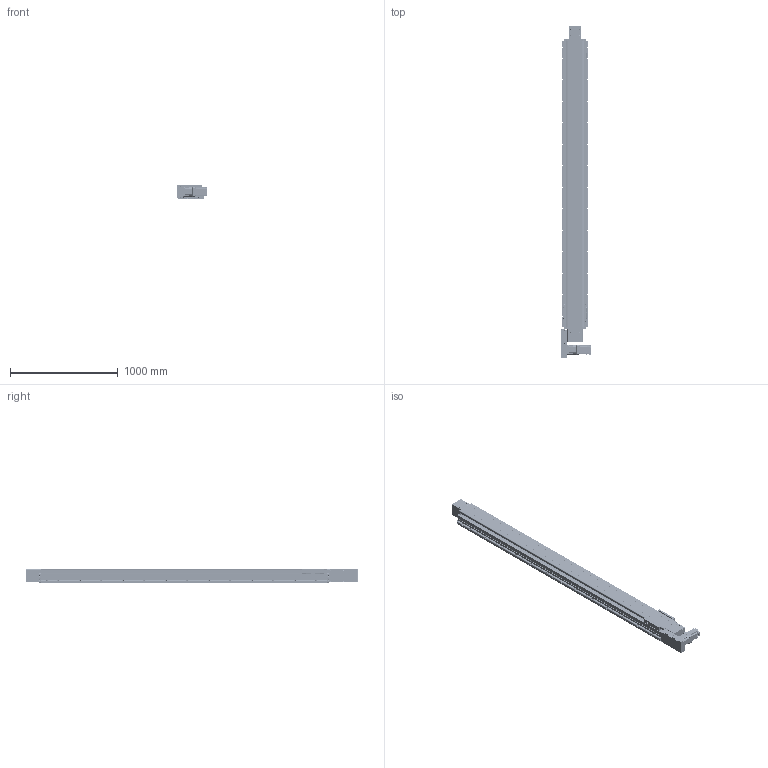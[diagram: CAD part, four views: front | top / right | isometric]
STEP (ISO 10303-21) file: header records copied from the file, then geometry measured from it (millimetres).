
FILE_DESCRIPTION(/* description */ (''),/* implementation_level */ '2;1');
FILE_NAME(/* name */ '\\192.168.0.160\disk1\HAN SHIN Master\B-설계부문\C-표준\B-2024년\BC02-표준도면\+로봇 개선표준도면\홈페이지 표준 도면\홈페이지 최종 작업 폴더\3D\HSB\HSB210\HSB210-R7G-N-2400-L.stp',/* time_stamp */ '2025-01-08T16:34:54+09:00',/* author */ ('user'),/* organization */ (''),/* preprocessor_version */ 'ST-DEVELOPER v18.1',/* originating_system */ 'Autodesk Inventor 2022',/* authorisation */ '');
FILE_SCHEMA (('AUTOMOTIVE_DESIGN { 1 0 10303 214 3 1 1 }'));
Products named in the file (37): HSB210-R7G-N-0500-L; HSB210 BASE - 2000ST; HSB210 FORNT HOUSUNG-Connecting Shaft; HSB160 SHAFT-1; HSB160 BEARING OVER; HSB210 FRONT COVER; REAR HOUSUNG-1-R1; HSB160 ARC COVER; HSB160 REAR SHAFT-2; REAR SHAFT--2; 6004ZZ; 6004ZZ Outer ring; 6004ZZ Shield1; 6004ZZ Inner ring; 6004ZZ Ball; 6004ZZ Shield2; UPCOVER; SIDE COVER; PGX90-H-1_3; HR200 SENSOR DOG; hsr_ftht_A-M6F_grease_nipple_joint; NIPPLE CAP(신규); SENSOR BRK(EE-SX674A); EE_SX674A; 6308ZZ; TENSION PLATE; HSB210 END COVER-1; HG90STOPPER - 27L; HSB210 TABLE (TEST); hg-kr73_; HSB210 L MOTOR PLATE ASSY; HG200 750W LR MOTOR PLATE-사출; 750W MOTOR PLATE; HR180,200-ACRYL COVER 2; HR180,200-ACRYL COVER; HG200-R L-BELT COVER; HR180,200-ACRYL COVER 3
Assembly tree (70 placements, depth 3):
  HSB210-R7G-N-0500-L
    HSB210 BASE - 2000ST
    HSB210 FRONT COVER  x2
    HSB210 FORNT HOUSUNG-Connecting Shaft
    HSB160 SHAFT-1
    HSB160 BEARING OVER
    HSB160 ARC COVER  x4
    REAR HOUSUNG-1-R1
    HSB160 REAR SHAFT-2
    REAR SHAFT--2
    6004ZZ  x2
      6004ZZ Outer ring
      6004ZZ Shield1
      6004ZZ Inner ring
      6004ZZ Ball
      6004ZZ Shield2
    TENSION PLATE  x2
    UPCOVER
    SIDE COVER  x2
    PGX90-H-1_3
    HG90STOPPER - 27L  x4
    HR200 SENSOR DOG
    SENSOR BRK(EE-SX674A)  x3
    EE_SX674A  x3
    NIPPLE CAP(신규)  x4
    hsr_ftht_A-M6F_grease_nipple_joint  x4
    6308ZZ  x2
    HSB210 END COVER-1
    HSB210 TABLE (TEST)
    hg-kr73_
    HSB210 L MOTOR PLATE ASSY
      HG200 750W LR MOTOR PLATE-사출
      750W MOTOR PLATE
      HR180,200-ACRYL COVER 2
      HR180,200-ACRYL COVER 3  x2
      HR180,200-ACRYL COVER
      HG200-R L-BELT COVER
Bounding box: 284.5 x 3085.5 x 130 mm (x, y, z)
Volume: 26207013.2 mm3; surface area: 5683234.6 mm2
Topology: 131 solids, 133 shells, 8193 faces, 22871 edges, 15095 vertices
Faces by surface type: plane 6164, cylinder 1455, cone 406, sphere 84, torus 59, bspline 25
Full cylindrical faces by diameter (mm): 2.013 x2, 2.459 x48, 3 x8, 3.2 x4, 3.242 x58, 3.4 x20, 3.5 x6, 4.134 x2, 4.2 x16, 4.5 x36, 4.917 x36, 5 x56, 5.1 x1, 5.5 x13, 5.6 x4, 5.9 x4, 6 x15, 6.5 x9, 6.6 x8, 6.647 x58, 6.8 x9, 7 x20, 7.6 x4, 8 x13, 8.433 x2, 9 x46, 9.5 x7, 10 x5, 10.106 x28, 11 x20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
Entity records: 181914 total; most frequent: CARTESIAN_POINT 35242, ORIENTED_EDGE 30392, DIRECTION 29254, EDGE_CURVE 15196, LINE 11646, VECTOR 11646, VERTEX_POINT 10126, AXIS2_PLACEMENT_3D 8804
